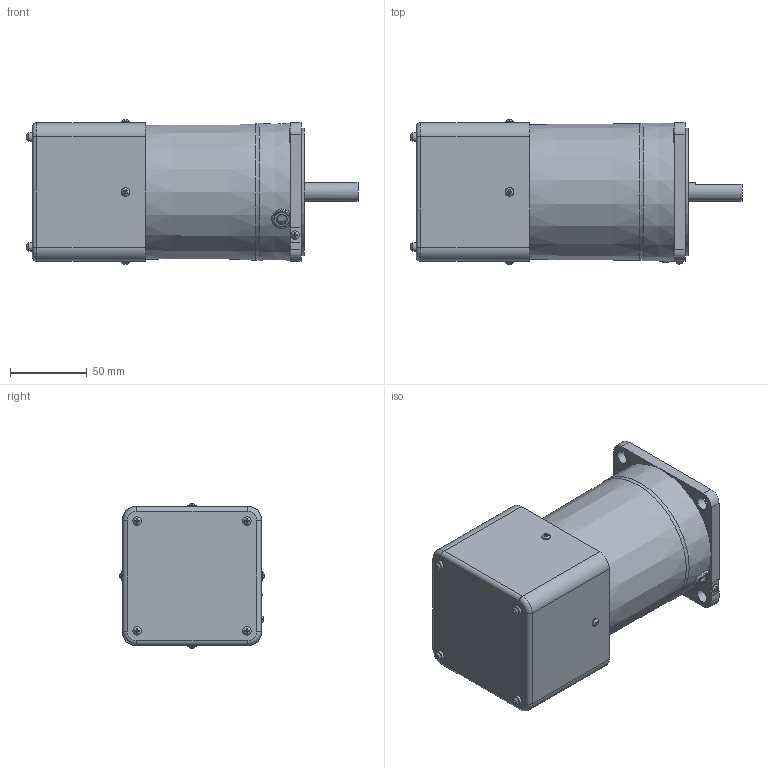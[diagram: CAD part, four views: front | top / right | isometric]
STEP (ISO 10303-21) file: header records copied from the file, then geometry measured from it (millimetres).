
FILE_DESCRIPTION(/* description */ (''),/* implementation_level */ '2;1');
FILE_NAME(/* name */ 'E:\도면작업\2016\0704) 미주향 SG 도면\3D MOTOR\SPEED CONTROL TYPE\SG9I90D_-S12(24).stp',/* time_stamp */ '2017-08-21T11:14:14+09:00',/* author */ ('jy-jung'),/* organization */ (''),/* preprocessor_version */ 'ST-DEVELOPER v15.6',/* originating_system */ 'Autodesk Inventor 2015',/* authorisation */ '');
FILE_SCHEMA (('AUTOMOTIVE_DESIGN { 1 0 10303 214 3 1 1 }'));
Length unit declared in the file: millimetre
Products named in the file (1): 부품27
Bounding box: 215.75 x 93.89 x 93.89 mm (x, y, z)
Volume: 965878.6 mm3; surface area: 105384.2 mm2
Topology: 1 solids, 7 shells, 309 faces, 753 edges, 487 vertices
Faces by surface type: plane 194, cylinder 72, torus 27, bspline 9, cone 7
Full cylindrical faces by diameter (mm): 3 x8, 4.5 x4, 5.6 x13, 6 x1, 8.5 x4, 9.5 x4, 10 x1, 12 x1, 40 x1, 83 x1
Entity records: 9640 total; most frequent: CARTESIAN_POINT 2439, ORIENTED_EDGE 1368, DIRECTION 1340, EDGE_CURVE 684, AXIS2_PLACEMENT_3D 489, VERTEX_POINT 482, EDGE_LOOP 420, LINE 362
